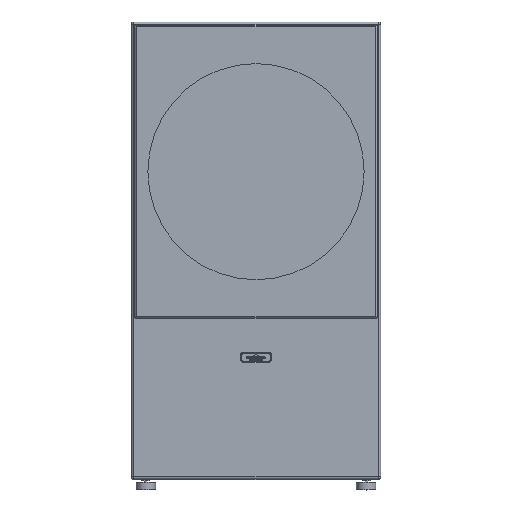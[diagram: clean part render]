
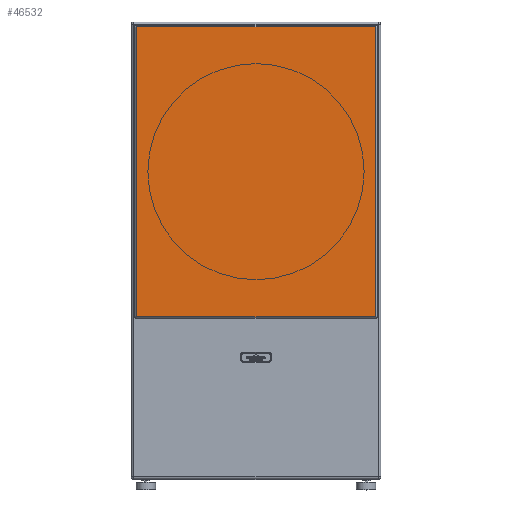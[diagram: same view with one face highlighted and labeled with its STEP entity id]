
A CAD part, top view. The second image highlights one B-rep face of the part: STEP entity #46532.
In plain terms, the highlighted planar face has unit normal (0, 0, 1).
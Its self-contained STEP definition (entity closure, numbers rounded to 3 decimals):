
#3007=PLANE('',#49341);
#4885=FACE_OUTER_BOUND('',#7584,.T.);
#7584=EDGE_LOOP('',(#32302,#32303,#32304,#32305,#32306,#32307,#32308,#32309));
#10528=LINE('',#66519,#14649);
#10529=LINE('',#66523,#14650);
#10530=LINE('',#66527,#14651);
#10531=LINE('',#66530,#14652);
#14649=VECTOR('',#53778,10.);
#14650=VECTOR('',#53781,10.);
#14651=VECTOR('',#53784,10.);
#14652=VECTOR('',#53787,10.);
#18787=CIRCLE('',#49342,2.083);
#18788=CIRCLE('',#49343,2.083);
#18789=CIRCLE('',#49344,2.083);
#18790=CIRCLE('',#49345,2.083);
#20529=VERTEX_POINT('',#66515);
#20530=VERTEX_POINT('',#66516);
#20531=VERTEX_POINT('',#66518);
#20532=VERTEX_POINT('',#66520);
#20533=VERTEX_POINT('',#66522);
#20534=VERTEX_POINT('',#66524);
#20535=VERTEX_POINT('',#66526);
#20536=VERTEX_POINT('',#66528);
#25161=EDGE_CURVE('',#20529,#20530,#18787,.T.);
#25162=EDGE_CURVE('',#20530,#20531,#10528,.T.);
#25163=EDGE_CURVE('',#20531,#20532,#18788,.T.);
#25164=EDGE_CURVE('',#20532,#20533,#10529,.T.);
#25165=EDGE_CURVE('',#20533,#20534,#18789,.T.);
#25166=EDGE_CURVE('',#20534,#20535,#10530,.T.);
#25167=EDGE_CURVE('',#20535,#20536,#18790,.T.);
#25168=EDGE_CURVE('',#20536,#20529,#10531,.T.);
#32302=ORIENTED_EDGE('',*,*,#25161,.T.);
#32303=ORIENTED_EDGE('',*,*,#25162,.T.);
#32304=ORIENTED_EDGE('',*,*,#25163,.T.);
#32305=ORIENTED_EDGE('',*,*,#25164,.T.);
#32306=ORIENTED_EDGE('',*,*,#25165,.T.);
#32307=ORIENTED_EDGE('',*,*,#25166,.T.);
#32308=ORIENTED_EDGE('',*,*,#25167,.T.);
#32309=ORIENTED_EDGE('',*,*,#25168,.T.);
#46532=ADVANCED_FACE('',(#4885),#3007,.T.);
#49341=AXIS2_PLACEMENT_3D('',#66514,#53774,#53775);
#49342=AXIS2_PLACEMENT_3D('',#66517,#53776,#53777);
#49343=AXIS2_PLACEMENT_3D('',#66521,#53779,#53780);
#49344=AXIS2_PLACEMENT_3D('',#66525,#53782,#53783);
#49345=AXIS2_PLACEMENT_3D('',#66529,#53785,#53786);
#53774=DIRECTION('center_axis',(0.,0.,1.));
#53775=DIRECTION('ref_axis',(1.,0.,0.));
#53776=DIRECTION('center_axis',(0.,0.,1.));
#53777=DIRECTION('ref_axis',(-1.,0.,0.));
#53778=DIRECTION('',(1.,0.,0.));
#53779=DIRECTION('center_axis',(0.,0.,1.));
#53780=DIRECTION('ref_axis',(-1.,0.,0.));
#53781=DIRECTION('',(0.,1.,0.));
#53782=DIRECTION('center_axis',(0.,0.,1.));
#53783=DIRECTION('ref_axis',(-1.,0.,0.));
#53784=DIRECTION('',(-1.,0.,0.));
#53785=DIRECTION('center_axis',(0.,0.,1.));
#53786=DIRECTION('ref_axis',(-1.,0.,0.));
#53787=DIRECTION('',(0.,-1.,0.));
#66514=CARTESIAN_POINT('Origin',(286.5,-156.5,130.2));
#66515=CARTESIAN_POINT('',(-288.583,-156.5,130.2));
#66516=CARTESIAN_POINT('',(-286.5,-158.583,130.2));
#66517=CARTESIAN_POINT('Origin',(-286.5,-156.5,130.2));
#66518=CARTESIAN_POINT('',(286.5,-158.583,130.2));
#66519=CARTESIAN_POINT('',(286.5,-158.583,130.2));
#66520=CARTESIAN_POINT('',(288.583,-156.5,130.2));
#66521=CARTESIAN_POINT('Origin',(286.5,-156.5,130.2));
#66522=CARTESIAN_POINT('',(288.583,536.5,130.2));
#66523=CARTESIAN_POINT('',(288.583,-156.5,130.2));
#66524=CARTESIAN_POINT('',(286.5,538.583,130.2));
#66525=CARTESIAN_POINT('Origin',(286.5,536.5,130.2));
#66526=CARTESIAN_POINT('',(-286.5,538.583,130.2));
#66527=CARTESIAN_POINT('',(286.5,538.583,130.2));
#66528=CARTESIAN_POINT('',(-288.583,536.5,130.2));
#66529=CARTESIAN_POINT('Origin',(-286.5,536.5,130.2));
#66530=CARTESIAN_POINT('',(-288.583,-156.5,130.2));
